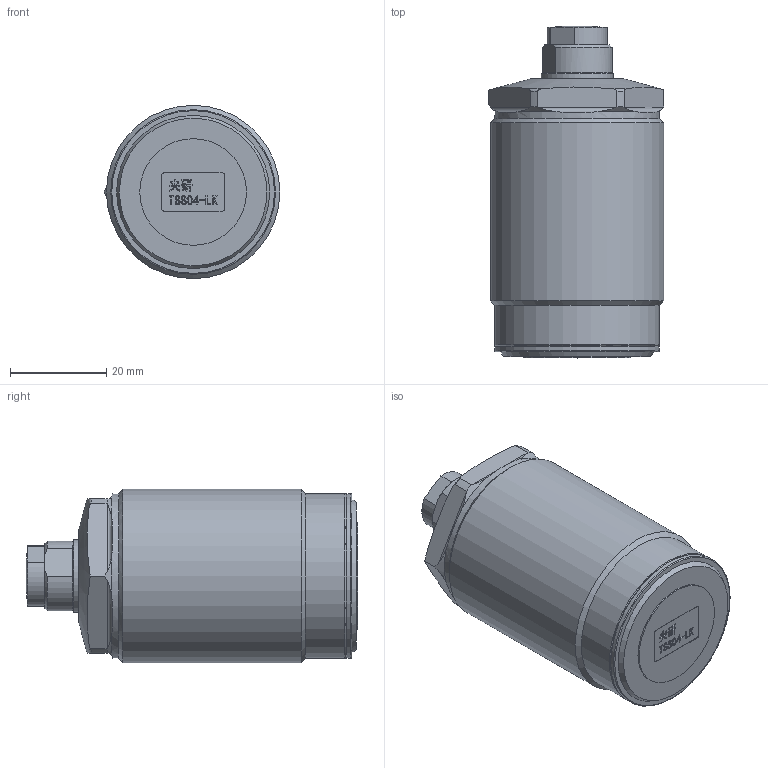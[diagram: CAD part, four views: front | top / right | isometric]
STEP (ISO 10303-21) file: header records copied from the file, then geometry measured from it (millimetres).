
FILE_DESCRIPTION(/* description */ (''),/* implementation_level */ '2;1');
FILE_NAME(/* name */ 'TSS04-LK.stp',/* time_stamp */ '2022-05-04T15:00:04+08:00',/* author */ (''),/* organization */ (''),/* preprocessor_version */ 'ST-DEVELOPER v16.7',/* originating_system */ 'SIEMENS PLM Software NX 12.0',/* authorisation */ '');
FILE_SCHEMA (('AUTOMOTIVE_DESIGN { 1 0 10303 214 3 1 1 1 }'));
Length unit declared in the file: millimetre
Products named in the file (1): TSS04-LK
Bounding box: 36.48 x 68.92 x 36 mm (x, y, z)
Volume: 57163.9 mm3; surface area: 12010.8 mm2
Topology: 3 solids, 3 shells, 270 faces, 701 edges, 461 vertices
Faces by surface type: plane 150, extrusion 60, cylinder 31, cone 16, torus 12, sphere 1
Full cylindrical faces by diameter (mm): 5 x1, 7.8 x1, 10 x2, 10.3 x1, 15 x2, 22.16 x1, 34.2 x3, 36 x1
Entity records: 10513 total; most frequent: CARTESIAN_POINT 2980, ORIENTED_EDGE 1338, DIRECTION 1056, EDGE_CURVE 669, VECTOR 468, VERTEX_POINT 458, LINE 408, EDGE_LOOP 323
